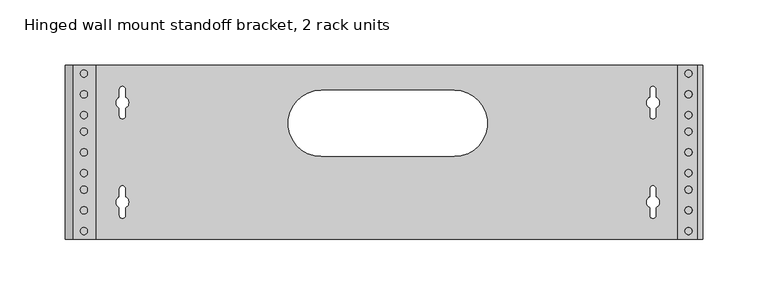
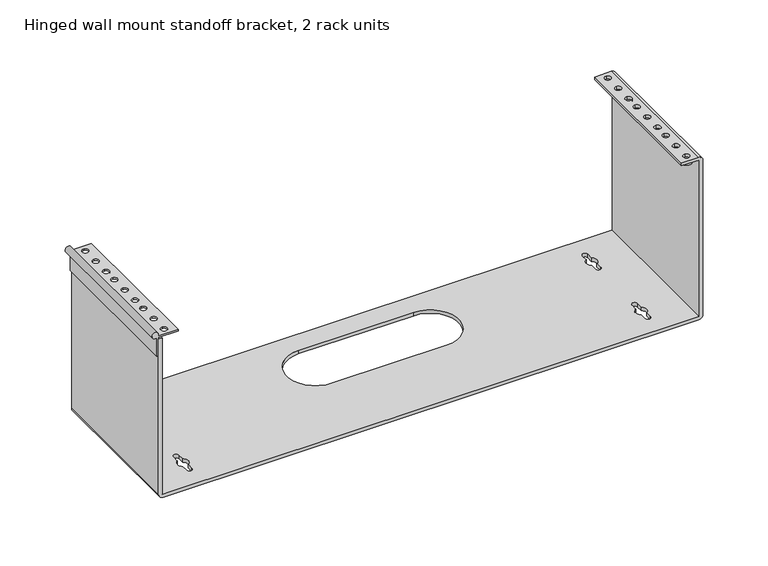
"""IFC4 building model written with IfcOpenShell, lengths in millimetres: electric appliance geometry, Data_Device-Network-Leviton-Hinged-Wall_Mount-Bracket : Hinged wall mount standoff bracket, 2 rack units."""

from ifc_helpers import new_model, si_unit, point, frame, frame_2d, origin, place, context, project, spatial, polyline, circle_curve, trimmed, segment, composite_curve, outline, extrude, source, transform, mapped, element, save
from ifc_brep_helpers import plane_surface, cylinder_surface, revolved_surface, advanced_brep


def hinged_wall_mount_standoff_bracket_2_rack_units_e0259093(model_context):
    return source(origin(), model_context, "Body", "SolidModel", [
        advanced_brep(
        [(214.2109, 72.1292825, 152.4), (218.2749, 72.1292825, 148.336), (218.2749, 72.1292825, 4.064), (214.2109, 72.1292825, 0.0), (-260.2611, 72.1292825, 0.0), (-264.3251, 72.1292825, 4.064), (-264.3251, 72.1292825, 149.733), (-261.1501, 72.1292825, 149.733), (-261.1501, 72.1292825, 3.175), (215.0999, 72.1292825, 3.175), (215.0999, 72.1292825, 149.86), (199.2249, 72.1292825, 149.86), (199.2249, 72.1292825, 152.4), (214.2109, -61.2207175, 152.4), (199.2249, -61.2207175, 152.4), (199.2249, -61.2207175, 149.86), (215.0999, -61.2207175, 149.86), (215.0999, -61.2207175, 3.175), (-261.1501, -61.2207175, 3.175), (-261.1501, -61.2207175, 149.733), (-264.3251, -61.2207175, 149.733), (-264.3251, -61.2207175, 4.064), (-260.2611, -61.2207175, 0.0), (214.2109, -61.2207175, 0.0), (218.2749, -61.2207175, 4.064), (218.2749, -61.2207175, 148.336), (207.3529, -57.6139175, 152.4), (207.3529, -52.1275175, 152.4), (207.3529, -41.7389175, 152.4), (207.3529, -36.2525175, 152.4), (207.3529, -25.8639175, 152.4), (207.3529, -20.3775175, 152.4), (207.3529, -13.1639175, 152.4), (207.3529, -7.6775175, 152.4), (207.3529, 2.7110825, 152.4), (207.3529, 8.1974825, 152.4), (207.3529, 18.5860825, 152.4), (207.3529, 24.0724825, 152.4), (207.3529, 31.2860825, 152.4), (207.3529, 36.7724825, 152.4), (207.3529, 47.1610825, 152.4), (207.3529, 52.6474825, 152.4), (207.3529, 63.0360825, 152.4), (207.3529, 68.5224825, 152.4), (207.3529, -52.1275175, 149.86), (207.3529, -57.6139175, 149.86), (207.3529, -36.2525175, 149.86), (207.3529, -41.7389175, 149.86), (207.3529, -20.3775175, 149.86), (207.3529, -25.8639175, 149.86), (207.3529, -7.6775175, 149.86), (207.3529, -13.1639175, 149.86), (207.3529, 8.1974825, 149.86), (207.3529, 2.7110825, 149.86), (207.3529, 24.0724825, 149.86), (207.3529, 18.5860825, 149.86), (207.3529, 36.7724825, 149.86), (207.3529, 31.2860825, 149.86), (207.3529, 52.6474825, 149.86), (207.3529, 47.1610825, 149.86), (207.3529, 68.5224825, 149.86), (207.3529, 63.0360825, 149.86), (-223.9391, 47.8045155, 3.175), (-223.9391, 39.3040496, 3.175), (-223.9391, 33.3942825, 3.175), (-228.5111, 33.3942825, 3.175), (-228.5111, 39.3040496, 3.175), (-228.5111, 47.8045155, 3.175), (-228.5111, 53.7142825, 3.175), (-223.9391, 53.7142825, 3.175), (-228.5111, -22.4857175, 3.175), (-223.9391, -22.4857175, 3.175), (-223.9391, -28.3954845, 3.175), (-223.9391, -36.8959504, 3.175), (-223.9391, -42.8057175, 3.175), (-228.5111, -42.8057175, 3.175), (-228.5111, -36.8959504, 3.175), (-228.5111, -28.3954845, 3.175), (27.7749, 53.0792825, 3.175), (27.7749, 2.2792825, 3.175), (-73.8251, 2.2792825, 3.175), (-73.8251, 53.0792825, 3.175), (182.4609, 53.7142825, 3.175), (182.4609, 47.8045155, 3.175), (182.4609, 39.3040496, 3.175), (182.4609, 33.3942825, 3.175), (177.8889, 33.3942825, 3.175), (177.8889, 39.3040496, 3.175), (177.8889, 47.8045155, 3.175), (177.8889, 53.7142825, 3.175), (177.8889, -22.4857175, 3.175), (182.4609, -22.4857175, 3.175), (182.4609, -28.3954845, 3.175), (182.4609, -36.8959504, 3.175), (182.4609, -42.8057175, 3.175), (177.8889, -42.8057175, 3.175), (177.8889, -36.8959504, 3.175), (177.8889, -28.3954845, 3.175), (-223.9391, 39.3040496, 0.0), (-223.9391, 47.8045155, 0.0), (-223.9391, 53.7142825, 0.0), (-228.5111, 53.7142825, 0.0), (-228.5111, 47.8045155, 0.0), (-228.5111, 39.3040496, 0.0), (-228.5111, 33.3942825, 0.0), (-223.9391, 33.3942825, 0.0), (-223.9391, -22.4857175, 0.0), (-228.5111, -22.4857175, 0.0), (-228.5111, -28.3954845, 0.0), (-228.5111, -36.8959504, 0.0), (-228.5111, -42.8057175, 0.0), (-223.9391, -42.8057175, 0.0), (-223.9391, -36.8959504, 0.0), (-223.9391, -28.3954845, 0.0), (27.7749, 2.2792825, 0.0), (27.7749, 53.0792825, 0.0), (-73.8251, 53.0792825, 0.0), (-73.8251, 2.2792825, 0.0), (182.4609, 47.8045155, 0.0), (182.4609, 53.7142825, 0.0), (177.8889, 53.7142825, 0.0), (177.8889, 47.8045155, 0.0), (177.8889, 39.3040496, 0.0), (177.8889, 33.3942825, 0.0), (182.4609, 33.3942825, 0.0), (182.4609, 39.3040496, 0.0), (182.4609, -22.4857175, 0.0), (177.8889, -22.4857175, 0.0), (177.8889, -28.3954845, 0.0), (177.8889, -36.8959504, 0.0), (177.8889, -42.8057175, 0.0), (182.4609, -42.8057175, 0.0), (182.4609, -36.8959504, 0.0), (182.4609, -28.3954845, 0.0)],
        [
            (0, 1, circle_curve(frame((214.2109, 72.1292825, 148.336), z_axis=(0.0, 1.0, 0.0), x_axis=(-1.0, 0.0, 0.0)), 4.064)),
            (1, 2),
            (2, 3, circle_curve(frame((214.2109, 72.1292825, 4.064), z_axis=(0.0, 1.0, 0.0), x_axis=(-1.0, 0.0, 0.0)), 4.064)),
            (3, 4),
            (4, 5, circle_curve(frame((-260.2611, 72.1292825, 4.064), z_axis=(0.0, 1.0, 0.0), x_axis=(-1.0, 0.0, 0.0)), 4.064)),
            (5, 6),
            (6, 7),
            (7, 8),
            (8, 9),
            (9, 10),
            (10, 11),
            (11, 12),
            (12, 0),
            (13, 14),
            (14, 15),
            (15, 16),
            (16, 17),
            (17, 18),
            (18, 19),
            (19, 20),
            (20, 21),
            (21, 22, circle_curve(frame((-260.2611, -61.2207175, 4.064), z_axis=(0.0, -1.0, 0.0), x_axis=(-1.0, 0.0, 0.0)), 4.064)),
            (22, 23),
            (23, 24, circle_curve(frame((214.2109, -61.2207175, 4.064), z_axis=(0.0, -1.0, 0.0), x_axis=(-1.0, 0.0, 0.0)), 4.064)),
            (24, 25),
            (25, 13, circle_curve(frame((214.2109, -61.2207175, 148.336), z_axis=(0.0, -1.0, 0.0), x_axis=(-1.0, 0.0, 0.0)), 4.064)),
            (12, 14),
            (13, 0),
            (26, 27, circle_curve(frame((207.3529, -54.8707175, 152.4), z_axis=(0.0, 0.0, -1.0), x_axis=(0.0, -1.0, 0.0)), 2.7432)),
            (27, 26, circle_curve(frame((207.3529, -54.8707175, 152.4), z_axis=(0.0, 0.0, -1.0), x_axis=(0.0, -1.0, 0.0)), 2.7432)),
            (28, 29, circle_curve(frame((207.3529, -38.9957175, 152.4), z_axis=(0.0, 0.0, -1.0), x_axis=(0.0, -1.0, 0.0)), 2.7432)),
            (29, 28, circle_curve(frame((207.3529, -38.9957175, 152.4), z_axis=(0.0, 0.0, -1.0), x_axis=(0.0, -1.0, 0.0)), 2.7432)),
            (30, 31, circle_curve(frame((207.3529, -23.1207175, 152.4), z_axis=(0.0, 0.0, -1.0), x_axis=(0.0, -1.0, 0.0)), 2.7432)),
            (31, 30, circle_curve(frame((207.3529, -23.1207175, 152.4), z_axis=(0.0, 0.0, -1.0), x_axis=(0.0, -1.0, 0.0)), 2.7432)),
            (32, 33, circle_curve(frame((207.3529, -10.4207175, 152.4), z_axis=(0.0, 0.0, -1.0), x_axis=(0.0, -1.0, 0.0)), 2.7432)),
            (33, 32, circle_curve(frame((207.3529, -10.4207175, 152.4), z_axis=(0.0, 0.0, -1.0), x_axis=(0.0, -1.0, 0.0)), 2.7432)),
            (34, 35, circle_curve(frame((207.3529, 5.4542825, 152.4), z_axis=(0.0, 0.0, -1.0), x_axis=(0.0, -1.0, 0.0)), 2.7432)),
            (35, 34, circle_curve(frame((207.3529, 5.4542825, 152.4), z_axis=(0.0, 0.0, -1.0), x_axis=(0.0, -1.0, 0.0)), 2.7432)),
            (36, 37, circle_curve(frame((207.3529, 21.3292825, 152.4), z_axis=(0.0, 0.0, -1.0), x_axis=(0.0, -1.0, 0.0)), 2.7432)),
            (37, 36, circle_curve(frame((207.3529, 21.3292825, 152.4), z_axis=(0.0, 0.0, -1.0), x_axis=(0.0, -1.0, 0.0)), 2.7432)),
            (38, 39, circle_curve(frame((207.3529, 34.0292825, 152.4), z_axis=(0.0, 0.0, -1.0), x_axis=(0.0, -1.0, 0.0)), 2.7432)),
            (39, 38, circle_curve(frame((207.3529, 34.0292825, 152.4), z_axis=(0.0, 0.0, -1.0), x_axis=(0.0, -1.0, 0.0)), 2.7432)),
            (40, 41, circle_curve(frame((207.3529, 49.9042825, 152.4), z_axis=(0.0, 0.0, -1.0), x_axis=(0.0, -1.0, 0.0)), 2.7432)),
            (41, 40, circle_curve(frame((207.3529, 49.9042825, 152.4), z_axis=(0.0, 0.0, -1.0), x_axis=(0.0, -1.0, 0.0)), 2.7432)),
            (42, 43, circle_curve(frame((207.3529, 65.7792825, 152.4), z_axis=(0.0, 0.0, -1.0), x_axis=(0.0, -1.0, 0.0)), 2.7432)),
            (43, 42, circle_curve(frame((207.3529, 65.7792825, 152.4), z_axis=(0.0, 0.0, -1.0), x_axis=(0.0, -1.0, 0.0)), 2.7432)),
            (11, 15),
            (10, 16),
            (44, 45, circle_curve(frame((207.3529, -54.8707175, 149.86), z_axis=(0.0, 0.0, 1.0), x_axis=(0.0, -1.0, 0.0)), 2.7432)),
            (45, 44, circle_curve(frame((207.3529, -54.8707175, 149.86), z_axis=(0.0, 0.0, 1.0), x_axis=(0.0, -1.0, 0.0)), 2.7432)),
            (46, 47, circle_curve(frame((207.3529, -38.9957175, 149.86), z_axis=(0.0, 0.0, 1.0), x_axis=(0.0, -1.0, 0.0)), 2.7432)),
            (47, 46, circle_curve(frame((207.3529, -38.9957175, 149.86), z_axis=(0.0, 0.0, 1.0), x_axis=(0.0, -1.0, 0.0)), 2.7432)),
            (48, 49, circle_curve(frame((207.3529, -23.1207175, 149.86), z_axis=(0.0, 0.0, 1.0), x_axis=(0.0, -1.0, 0.0)), 2.7432)),
            (49, 48, circle_curve(frame((207.3529, -23.1207175, 149.86), z_axis=(0.0, 0.0, 1.0), x_axis=(0.0, -1.0, 0.0)), 2.7432)),
            (50, 51, circle_curve(frame((207.3529, -10.4207175, 149.86), z_axis=(0.0, 0.0, 1.0), x_axis=(0.0, -1.0, 0.0)), 2.7432)),
            (51, 50, circle_curve(frame((207.3529, -10.4207175, 149.86), z_axis=(0.0, 0.0, 1.0), x_axis=(0.0, -1.0, 0.0)), 2.7432)),
            (52, 53, circle_curve(frame((207.3529, 5.4542825, 149.86), z_axis=(0.0, 0.0, 1.0), x_axis=(0.0, -1.0, 0.0)), 2.7432)),
            (53, 52, circle_curve(frame((207.3529, 5.4542825, 149.86), z_axis=(0.0, 0.0, 1.0), x_axis=(0.0, -1.0, 0.0)), 2.7432)),
            (54, 55, circle_curve(frame((207.3529, 21.3292825, 149.86), z_axis=(0.0, 0.0, 1.0), x_axis=(0.0, -1.0, 0.0)), 2.7432)),
            (55, 54, circle_curve(frame((207.3529, 21.3292825, 149.86), z_axis=(0.0, 0.0, 1.0), x_axis=(0.0, -1.0, 0.0)), 2.7432)),
            (56, 57, circle_curve(frame((207.3529, 34.0292825, 149.86), z_axis=(0.0, 0.0, 1.0), x_axis=(0.0, -1.0, 0.0)), 2.7432)),
            (57, 56, circle_curve(frame((207.3529, 34.0292825, 149.86), z_axis=(0.0, 0.0, 1.0), x_axis=(0.0, -1.0, 0.0)), 2.7432)),
            (58, 59, circle_curve(frame((207.3529, 49.9042825, 149.86), z_axis=(0.0, 0.0, 1.0), x_axis=(0.0, -1.0, 0.0)), 2.7432)),
            (59, 58, circle_curve(frame((207.3529, 49.9042825, 149.86), z_axis=(0.0, 0.0, 1.0), x_axis=(0.0, -1.0, 0.0)), 2.7432)),
            (60, 61, circle_curve(frame((207.3529, 65.7792825, 149.86), z_axis=(0.0, 0.0, 1.0), x_axis=(0.0, -1.0, 0.0)), 2.7432)),
            (61, 60, circle_curve(frame((207.3529, 65.7792825, 149.86), z_axis=(0.0, 0.0, 1.0), x_axis=(0.0, -1.0, 0.0)), 2.7432)),
            (9, 17),
            (8, 18),
            (62, 63, circle_curve(frame((-226.2251, 43.5542825, 3.175), z_axis=(0.0, 0.0, -1.0), x_axis=(1.0, 0.0, 0.0)), 4.826)),
            (63, 64),
            (64, 65, circle_curve(frame((-226.2251, 33.3942825, 3.175), z_axis=(0.0, 0.0, -1.0), x_axis=(1.0, 0.0, 0.0)), 2.286)),
            (65, 66),
            (66, 67, circle_curve(frame((-226.2251, 43.5542825, 3.175), z_axis=(0.0, 0.0, -1.0), x_axis=(1.0, 0.0, 0.0)), 4.826)),
            (67, 68),
            (68, 69, circle_curve(frame((-226.2251, 53.7142825, 3.175), z_axis=(0.0, 0.0, -1.0), x_axis=(1.0, 0.0, 0.0)), 2.286)),
            (69, 62),
            (70, 71, circle_curve(frame((-226.2251, -22.4857175, 3.175), z_axis=(0.0, 0.0, -1.0), x_axis=(1.0, 0.0, 0.0)), 2.286)),
            (71, 72),
            (72, 73, circle_curve(frame((-226.2251, -32.6457175, 3.175), z_axis=(0.0, 0.0, -1.0), x_axis=(1.0, 0.0, 0.0)), 4.826)),
            (73, 74),
            (74, 75, circle_curve(frame((-226.2251, -42.8057175, 3.175), z_axis=(0.0, 0.0, -1.0), x_axis=(1.0, 0.0, 0.0)), 2.286)),
            (75, 76),
            (76, 77, circle_curve(frame((-226.2251, -32.6457175, 3.175), z_axis=(0.0, 0.0, -1.0), x_axis=(1.0, 0.0, 0.0)), 4.826)),
            (77, 70),
            (78, 79, circle_curve(frame((27.7749, 27.6792825, 3.175), z_axis=(0.0, 0.0, -1.0), x_axis=(1.0, 0.0, 0.0)), 25.4)),
            (79, 80),
            (80, 81, circle_curve(frame((-73.8251, 27.6792825, 3.175), z_axis=(0.0, 0.0, -1.0), x_axis=(1.0, 0.0, 0.0)), 25.4)),
            (81, 78),
            (82, 83),
            (83, 84, circle_curve(frame((180.1749, 43.5542825, 3.175), z_axis=(0.0, 0.0, -1.0), x_axis=(1.0, 0.0, 0.0)), 4.826)),
            (84, 85),
            (85, 86, circle_curve(frame((180.1749, 33.3942825, 3.175), z_axis=(0.0, 0.0, -1.0), x_axis=(1.0, 0.0, 0.0)), 2.286)),
            (86, 87),
            (87, 88, circle_curve(frame((180.1749, 43.5542825, 3.175), z_axis=(0.0, 0.0, -1.0), x_axis=(1.0, 0.0, 0.0)), 4.826)),
            (88, 89),
            (89, 82, circle_curve(frame((180.1749, 53.7142825, 3.175), z_axis=(0.0, 0.0, -1.0), x_axis=(1.0, 0.0, 0.0)), 2.286)),
            (90, 91, circle_curve(frame((180.1749, -22.4857175, 3.175), z_axis=(0.0, 0.0, -1.0), x_axis=(1.0, 0.0, 0.0)), 2.286)),
            (91, 92),
            (92, 93, circle_curve(frame((180.1749, -32.6457175, 3.175), z_axis=(0.0, 0.0, -1.0), x_axis=(1.0, 0.0, 0.0)), 4.826)),
            (93, 94),
            (94, 95, circle_curve(frame((180.1749, -42.8057175, 3.175), z_axis=(0.0, 0.0, -1.0), x_axis=(1.0, 0.0, 0.0)), 2.286)),
            (95, 96),
            (96, 97, circle_curve(frame((180.1749, -32.6457175, 3.175), z_axis=(0.0, 0.0, -1.0), x_axis=(1.0, 0.0, 0.0)), 4.826)),
            (97, 90),
            (7, 19),
            (6, 20),
            (5, 21),
            (4, 22),
            (3, 23),
            (98, 99, circle_curve(frame((-226.2251, 43.5542825, 0.0), z_axis=(0.0, 0.0, 1.0), x_axis=(1.0, 0.0, 0.0)), 4.826)),
            (99, 100),
            (100, 101, circle_curve(frame((-226.2251, 53.7142825, 0.0), z_axis=(0.0, 0.0, 1.0), x_axis=(1.0, 0.0, 0.0)), 2.286)),
            (101, 102),
            (102, 103, circle_curve(frame((-226.2251, 43.5542825, 0.0), z_axis=(0.0, 0.0, 1.0), x_axis=(1.0, 0.0, 0.0)), 4.826)),
            (103, 104),
            (104, 105, circle_curve(frame((-226.2251, 33.3942825, 0.0), z_axis=(0.0, 0.0, 1.0), x_axis=(1.0, 0.0, 0.0)), 2.286)),
            (105, 98),
            (106, 107, circle_curve(frame((-226.2251, -22.4857175, 0.0), z_axis=(0.0, 0.0, 1.0), x_axis=(1.0, 0.0, 0.0)), 2.286)),
            (107, 108),
            (108, 109, circle_curve(frame((-226.2251, -32.6457175, 0.0), z_axis=(0.0, 0.0, 1.0), x_axis=(1.0, 0.0, 0.0)), 4.826)),
            (109, 110),
            (110, 111, circle_curve(frame((-226.2251, -42.8057175, 0.0), z_axis=(0.0, 0.0, 1.0), x_axis=(1.0, 0.0, 0.0)), 2.286)),
            (111, 112),
            (112, 113, circle_curve(frame((-226.2251, -32.6457175, 0.0), z_axis=(0.0, 0.0, 1.0), x_axis=(1.0, 0.0, 0.0)), 4.826)),
            (113, 106),
            (114, 115, circle_curve(frame((27.7749, 27.6792825, 0.0), z_axis=(0.0, 0.0, 1.0), x_axis=(1.0, 0.0, 0.0)), 25.4)),
            (115, 116),
            (116, 117, circle_curve(frame((-73.8251, 27.6792825, 0.0), z_axis=(0.0, 0.0, 1.0), x_axis=(1.0, 0.0, 0.0)), 25.4)),
            (117, 114),
            (118, 119),
            (119, 120, circle_curve(frame((180.1749, 53.7142825, 0.0), z_axis=(0.0, 0.0, 1.0), x_axis=(1.0, 0.0, 0.0)), 2.286)),
            (120, 121),
            (121, 122, circle_curve(frame((180.1749, 43.5542825, 0.0), z_axis=(0.0, 0.0, 1.0), x_axis=(1.0, 0.0, 0.0)), 4.826)),
            (122, 123),
            (123, 124, circle_curve(frame((180.1749, 33.3942825, 0.0), z_axis=(0.0, 0.0, 1.0), x_axis=(1.0, 0.0, 0.0)), 2.286)),
            (124, 125),
            (125, 118, circle_curve(frame((180.1749, 43.5542825, 0.0), z_axis=(0.0, 0.0, 1.0), x_axis=(1.0, 0.0, 0.0)), 4.826)),
            (126, 127, circle_curve(frame((180.1749, -22.4857175, 0.0), z_axis=(0.0, 0.0, 1.0), x_axis=(1.0, 0.0, 0.0)), 2.286)),
            (127, 128),
            (128, 129, circle_curve(frame((180.1749, -32.6457175, 0.0), z_axis=(0.0, 0.0, 1.0), x_axis=(1.0, 0.0, 0.0)), 4.826)),
            (129, 130),
            (130, 131, circle_curve(frame((180.1749, -42.8057175, 0.0), z_axis=(0.0, 0.0, 1.0), x_axis=(1.0, 0.0, 0.0)), 2.286)),
            (131, 132),
            (132, 133, circle_curve(frame((180.1749, -32.6457175, 0.0), z_axis=(0.0, 0.0, 1.0), x_axis=(1.0, 0.0, 0.0)), 4.826)),
            (133, 126),
            (2, 24),
            (1, 25),
            (44, 27),
            (26, 45),
            (46, 29),
            (28, 47),
            (48, 31),
            (30, 49),
            (50, 33),
            (32, 51),
            (52, 35),
            (34, 53),
            (54, 37),
            (36, 55),
            (56, 39),
            (38, 57),
            (58, 41),
            (40, 59),
            (60, 43),
            (42, 61),
            (98, 63),
            (62, 99),
            (69, 100),
            (68, 101),
            (67, 102),
            (66, 103),
            (65, 104),
            (64, 105),
            (106, 71),
            (70, 107),
            (77, 108),
            (76, 109),
            (75, 110),
            (74, 111),
            (73, 112),
            (72, 113),
            (114, 79),
            (78, 115),
            (81, 116),
            (80, 117),
            (118, 83),
            (82, 119),
            (89, 120),
            (88, 121),
            (87, 122),
            (86, 123),
            (85, 124),
            (84, 125),
            (126, 91),
            (90, 127),
            (97, 128),
            (96, 129),
            (95, 130),
            (94, 131),
            (93, 132),
            (92, 133),
        ],
        [
            plane_surface(frame((210.1469, 72.1292825, 148.336), z_axis=(0.0, 1.0, 0.0), x_axis=(0.0, 0.0, 1.0))),
            plane_surface(frame((210.1469, -61.2207175, 148.336), z_axis=(0.0, -1.0, 0.0), x_axis=(0.0, 0.0, -1.0))),
            plane_surface(frame((199.2249, 72.1292825, 152.4), z_axis=(0.0, 0.0, 1.0), x_axis=(0.0, -1.0, 0.0))),
            plane_surface(frame((199.2249, 72.1292825, 149.86), z_axis=(-1.0, 0.0, 0.0), x_axis=(0.0, -1.0, 0.0))),
            plane_surface(frame((215.0999, 72.1292825, 149.86), z_axis=(0.0, 0.0, -1.0), x_axis=(0.0, -1.0, 0.0))),
            plane_surface(frame((215.0999, 72.1292825, 3.175), z_axis=(-1.0, 0.0, 0.0), x_axis=(0.0, -1.0, 0.0))),
            plane_surface(frame((-261.1501, 72.1292825, 3.175), z_axis=(0.0, 0.0, 1.0), x_axis=(0.0, -1.0, 0.0))),
            plane_surface(frame((-261.1501, 72.1292825, 149.733), z_axis=(1.0, 0.0, 0.0), x_axis=(0.0, -1.0, 0.0))),
            plane_surface(frame((-264.3251, 72.1292825, 149.733), z_axis=(0.0, 0.0, 1.0), x_axis=(0.0, -1.0, 0.0))),
            plane_surface(frame((-264.3251, 72.1292825, 4.064), z_axis=(-1.0, 0.0, 0.0), x_axis=(0.0, -1.0, 0.0))),
            cylinder_surface(frame((-260.2611, -61.2207175, 4.064), z_axis=(0.0, 1.0, 0.0), x_axis=(-1.0, 0.0, 0.0)), 4.064),
            plane_surface(frame((214.2109, 72.1292825, 0.0), z_axis=(0.0, 0.0, -1.0), x_axis=(0.0, -1.0, 0.0))),
            cylinder_surface(frame((214.2109, -61.2207175, 4.064), z_axis=(0.0, 1.0, 0.0), x_axis=(-1.0, 0.0, 0.0)), 4.064),
            plane_surface(frame((218.2749, 72.1292825, 148.336), z_axis=(1.0, 0.0, 0.0), x_axis=(0.0, -1.0, 0.0))),
            cylinder_surface(frame((214.2109, -61.2207175, 148.336), z_axis=(0.0, 1.0, 0.0), x_axis=(-1.0, 0.0, 0.0)), 4.064),
            revolved_surface(polyline([(207.3529, -57.6139175, 152.4), (207.3529, -57.6139175, 149.86)]), (207.3529, -54.8707175, 152.4), (0.0, 0.0, 1.0)),
            revolved_surface(polyline([(207.3529, -41.7389175, 152.4), (207.3529, -41.7389175, 149.86)]), (207.3529, -38.9957175, 152.4), (0.0, 0.0, 1.0)),
            revolved_surface(polyline([(207.3529, -25.8639175, 152.4), (207.3529, -25.8639175, 149.86)]), (207.3529, -23.1207175, 152.4), (0.0, 0.0, 1.0)),
            revolved_surface(polyline([(207.3529, -13.1639175, 152.4), (207.3529, -13.1639175, 149.86)]), (207.3529, -10.4207175, 152.4), (0.0, 0.0, 1.0)),
            revolved_surface(polyline([(207.3529, 2.7110825, 152.4), (207.3529, 2.7110825, 149.86)]), (207.3529, 5.4542825, 152.4), (0.0, 0.0, 1.0)),
            revolved_surface(polyline([(207.3529, 18.586082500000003, 152.4), (207.3529, 18.586082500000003, 149.86)]), (207.3529, 21.3292825, 152.4), (0.0, 0.0, 1.0)),
            revolved_surface(polyline([(207.3529, 31.2860825, 152.4), (207.3529, 31.2860825, 149.86)]), (207.3529, 34.0292825, 152.4), (0.0, 0.0, 1.0)),
            revolved_surface(polyline([(207.3529, 47.1610825, 152.4), (207.3529, 47.1610825, 149.86)]), (207.3529, 49.9042825, 152.4), (0.0, 0.0, 1.0)),
            revolved_surface(polyline([(207.3529, 63.03608249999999, 152.4), (207.3529, 63.03608249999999, 149.86)]), (207.3529, 65.7792825, 152.4), (0.0, 0.0, 1.0)),
            revolved_surface(polyline([(-221.3991, 43.5542825, 3.175), (-221.3991, 43.5542825, 0.0)]), (-226.2251, 43.5542825, 0.0), (0.0, 0.0, 1.0)),
            plane_surface(frame((-223.9391, 47.8045155, 5.1760392), z_axis=(-1.0, 0.0, 0.0), x_axis=(0.0, 0.0, -1.0))),
            revolved_surface(polyline([(-223.9391, 53.7142825, 3.175), (-223.9391, 53.7142825, 0.0)]), (-226.2251, 53.7142825, 0.0), (0.0, 0.0, 1.0)),
            plane_surface(frame((-228.5111, 53.7142825, 5.1760392), z_axis=(1.0, 0.0, 0.0), x_axis=(0.0, 0.0, -1.0))),
            plane_surface(frame((-228.5111, 39.3040496, 5.1760392), z_axis=(1.0, 0.0, 0.0), x_axis=(0.0, 0.0, -1.0))),
            revolved_surface(polyline([(-223.9391, 33.3942825, 3.175), (-223.9391, 33.3942825, 0.0)]), (-226.2251, 33.3942825, 0.0), (0.0, 0.0, 1.0)),
            plane_surface(frame((-223.9391, 33.3942825, 5.1760392), z_axis=(-1.0, 0.0, 0.0), x_axis=(0.0, 0.0, -1.0))),
            revolved_surface(polyline([(-223.9391, -22.4857175, 3.175), (-223.9391, -22.4857175, 0.0)]), (-226.2251, -22.4857175, 0.0), (0.0, 0.0, 1.0)),
            plane_surface(frame((-228.5111, -22.4857175, 5.1760392), z_axis=(1.0, 0.0, 0.0), x_axis=(0.0, 0.0, -1.0))),
            revolved_surface(polyline([(-221.3991, -32.6457175, 3.175), (-221.3991, -32.6457175, 0.0)]), (-226.2251, -32.6457175, 0.0), (0.0, 0.0, 1.0)),
            plane_surface(frame((-228.5111, -36.8959504, 5.1760392), z_axis=(1.0, 0.0, 0.0), x_axis=(0.0, 0.0, -1.0))),
            revolved_surface(polyline([(-223.9391, -42.8057175, 3.175), (-223.9391, -42.8057175, 0.0)]), (-226.2251, -42.8057175, 0.0), (0.0, 0.0, 1.0)),
            plane_surface(frame((-223.9391, -42.8057175, 5.1760392), z_axis=(-1.0, 0.0, 0.0), x_axis=(0.0, 0.0, -1.0))),
            plane_surface(frame((-223.9391, -28.3954845, 5.1760392), z_axis=(-1.0, 0.0, 0.0), x_axis=(0.0, 0.0, -1.0))),
            revolved_surface(polyline([(53.174899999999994, 27.6792825, 3.175), (53.174899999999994, 27.6792825, 0.0)]), (27.7749, 27.6792825, 0.0), (0.0, 0.0, 1.0)),
            plane_surface(frame((27.7749, 53.0792825, 5.1760392), z_axis=(0.0, -1.0, 0.0), x_axis=(0.0, 0.0, -1.0))),
            revolved_surface(polyline([(-48.42510000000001, 27.6792825, 3.175), (-48.42510000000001, 27.6792825, 0.0)]), (-73.8251, 27.6792825, 0.0), (0.0, 0.0, 1.0)),
            plane_surface(frame((-73.8251, 2.2792825, 5.1760392), z_axis=(0.0, 1.0, 0.0), x_axis=(0.0, 0.0, -1.0))),
            plane_surface(frame((182.4609, 47.8045155, 5.1760392), z_axis=(-1.0, 0.0, 0.0), x_axis=(0.0, 0.0, -1.0))),
            revolved_surface(polyline([(182.4609, 53.7142825, 3.175), (182.4609, 53.7142825, 0.0)]), (180.1749, 53.7142825, 0.0), (0.0, 0.0, 1.0)),
            plane_surface(frame((177.8889, 53.7142825, 5.1760392), z_axis=(1.0, 0.0, 0.0), x_axis=(0.0, 0.0, -1.0))),
            revolved_surface(polyline([(185.0009, 43.5542825, 3.175), (185.0009, 43.5542825, 0.0)]), (180.1749, 43.5542825, 0.0), (0.0, 0.0, 1.0)),
            plane_surface(frame((177.8889, 39.3040496, 5.1760392), z_axis=(1.0, 0.0, 0.0), x_axis=(0.0, 0.0, -1.0))),
            revolved_surface(polyline([(182.4609, 33.3942825, 3.175), (182.4609, 33.3942825, 0.0)]), (180.1749, 33.3942825, 0.0), (0.0, 0.0, 1.0)),
            plane_surface(frame((182.4609, 33.3942825, 5.1760392), z_axis=(-1.0, 0.0, 0.0), x_axis=(0.0, 0.0, -1.0))),
            revolved_surface(polyline([(182.4609, -22.4857175, 3.175), (182.4609, -22.4857175, 0.0)]), (180.1749, -22.4857175, 0.0), (0.0, 0.0, 1.0)),
            plane_surface(frame((177.8889, -22.4857175, 5.1760392), z_axis=(1.0, 0.0, 0.0), x_axis=(0.0, 0.0, -1.0))),
            revolved_surface(polyline([(185.0009, -32.6457175, 3.175), (185.0009, -32.6457175, 0.0)]), (180.1749, -32.6457175, 0.0), (0.0, 0.0, 1.0)),
            plane_surface(frame((177.8889, -36.8959504, 5.1760392), z_axis=(1.0, 0.0, 0.0), x_axis=(0.0, 0.0, -1.0))),
            revolved_surface(polyline([(182.4609, -42.8057175, 3.175), (182.4609, -42.8057175, 0.0)]), (180.1749, -42.8057175, 0.0), (0.0, 0.0, 1.0)),
            plane_surface(frame((182.4609, -42.8057175, 5.1760392), z_axis=(-1.0, 0.0, 0.0), x_axis=(0.0, 0.0, -1.0))),
            plane_surface(frame((182.4609, -28.3954845, 5.1760392), z_axis=(-1.0, 0.0, 0.0), x_axis=(0.0, 0.0, -1.0))),
        ],
        [
            (0, [[1, 2, 3, 4, 5, 6, 7, 8, 9, 10, 11, 12, 13]]),
            (1, [[14, 15, 16, 17, 18, 19, 20, 21, 22, 23, 24, 25, 26]]),
            (2, [[-13, 27, -14, 28], [29, 30], [31, 32], [33, 34], [35, 36], [37, 38], [39, 40], [41, 42], [43, 44], [45, 46]]),
            (3, [[-12, 47, -15, -27]]),
            (4, [[-11, 48, -16, -47], [49, 50], [51, 52], [53, 54], [55, 56], [57, 58], [59, 60], [61, 62], [63, 64], [65, 66]]),
            (5, [[-10, 67, -17, -48]]),
            (6, [[-9, 68, -18, -67], [69, 70, 71, 72, 73, 74, 75, 76], [77, 78, 79, 80, 81, 82, 83, 84], [85, 86, 87, 88], [89, 90, 91, 92, 93, 94, 95, 96], [97, 98, 99, 100, 101, 102, 103, 104]]),
            (7, [[-8, 105, -19, -68]]),
            (8, [[-7, 106, -20, -105]]),
            (9, [[-6, 107, -21, -106]]),
            (10, [[-5, 108, -22, -107]]),
            (11, [[-4, 109, -23, -108], [110, 111, 112, 113, 114, 115, 116, 117], [118, 119, 120, 121, 122, 123, 124, 125], [126, 127, 128, 129], [130, 131, 132, 133, 134, 135, 136, 137], [138, 139, 140, 141, 142, 143, 144, 145]]),
            (12, [[-3, 146, -24, -109]]),
            (13, [[-2, 147, -25, -146]]),
            (14, [[-1, -28, -26, -147]]),
            (15, [[148, -29, 149, -49]]),
            (15, [[-148, -50, -149, -30]]),
            (16, [[150, -31, 151, -51]]),
            (16, [[-150, -52, -151, -32]]),
            (17, [[152, -33, 153, -53]]),
            (17, [[-152, -54, -153, -34]]),
            (18, [[154, -35, 155, -55]]),
            (18, [[-154, -56, -155, -36]]),
            (19, [[156, -37, 157, -57]]),
            (19, [[-156, -58, -157, -38]]),
            (20, [[158, -39, 159, -59]]),
            (20, [[-158, -60, -159, -40]]),
            (21, [[160, -41, 161, -61]]),
            (21, [[-160, -62, -161, -42]]),
            (22, [[162, -43, 163, -63]]),
            (22, [[-162, -64, -163, -44]]),
            (23, [[164, -45, 165, -65]]),
            (23, [[-164, -66, -165, -46]]),
            (24, [[166, -69, 167, -110]]),
            (25, [[-167, -76, 168, -111]]),
            (26, [[-168, -75, 169, -112]]),
            (27, [[-169, -74, 170, -113]]),
            (24, [[-170, -73, 171, -114]]),
            (28, [[-171, -72, 172, -115]]),
            (29, [[-172, -71, 173, -116]]),
            (30, [[-166, -117, -173, -70]]),
            (31, [[174, -77, 175, -118]]),
            (32, [[-175, -84, 176, -119]]),
            (33, [[-176, -83, 177, -120]]),
            (34, [[-177, -82, 178, -121]]),
            (35, [[-178, -81, 179, -122]]),
            (36, [[-179, -80, 180, -123]]),
            (33, [[-180, -79, 181, -124]]),
            (37, [[-174, -125, -181, -78]]),
            (38, [[182, -85, 183, -126]]),
            (39, [[-183, -88, 184, -127]]),
            (40, [[-184, -87, 185, -128]]),
            (41, [[-182, -129, -185, -86]]),
            (42, [[186, -89, 187, -130]]),
            (43, [[-187, -96, 188, -131]]),
            (44, [[-188, -95, 189, -132]]),
            (45, [[-189, -94, 190, -133]]),
            (46, [[-190, -93, 191, -134]]),
            (47, [[-191, -92, 192, -135]]),
            (48, [[-192, -91, 193, -136]]),
            (45, [[-186, -137, -193, -90]]),
            (49, [[194, -97, 195, -138]]),
            (50, [[-195, -104, 196, -139]]),
            (51, [[-196, -103, 197, -140]]),
            (52, [[-197, -102, 198, -141]]),
            (53, [[-198, -101, 199, -142]]),
            (54, [[-199, -100, 200, -143]]),
            (51, [[-200, -99, 201, -144]]),
            (55, [[-194, -145, -201, -98]]),
        ],
    ),
        advanced_brep(
        [(-264.3251, 72.1292825, 133.6802), (-265.5951, 72.1292825, 133.6802), (-265.5951, 72.1292825, 151.6242476), (-264.3251, 72.1292825, 154.0002), (-264.3251, 72.1292825, 152.4), (-246.8626, 72.1292825, 152.4), (-246.8626, 72.1292825, 151.1427), (-264.3251, 72.1292825, 151.1427), (-264.3251, -61.2207175, 133.6802), (-264.3251, -61.2207175, 151.1427), (-246.8626, -61.2207175, 151.1427), (-246.8626, -61.2207175, 152.4), (-264.3251, -61.2207175, 152.4), (-264.3251, -61.2207175, 154.0002), (-265.5951, -61.2207175, 151.6242476), (-265.5951, -61.2207175, 133.6802), (-255.7526, 63.0360825, 152.4), (-255.7526, 68.5224825, 152.4), (-255.7526, 47.1610825, 152.4), (-255.7526, 52.6474825, 152.4), (-255.7526, 31.2860825, 152.4), (-255.7526, 36.7724825, 152.4), (-255.7526, 18.5860825, 152.4), (-255.7526, 24.0724825, 152.4), (-255.7526, 2.7110825, 152.4), (-255.7526, 8.1974825, 152.4), (-255.7526, -13.1639175, 152.4), (-255.7526, -7.6775175, 152.4), (-255.7526, -25.8639175, 152.4), (-255.7526, -20.3775175, 152.4), (-255.7526, -41.7389175, 152.4), (-255.7526, -36.2525175, 152.4), (-255.7526, -57.6139175, 152.4), (-255.7526, -52.1275175, 152.4), (-255.7526, 68.5224825, 151.1427), (-255.7526, 63.0360825, 151.1427), (-255.7526, 52.6474825, 151.1427), (-255.7526, 47.1610825, 151.1427), (-255.7526, 36.7724825, 151.1427), (-255.7526, 31.2860825, 151.1427), (-255.7526, 24.0724825, 151.1427), (-255.7526, 18.5860825, 151.1427), (-255.7526, 8.1974825, 151.1427), (-255.7526, 2.7110825, 151.1427), (-255.7526, -7.6775175, 151.1427), (-255.7526, -13.1639175, 151.1427), (-255.7526, -20.3775175, 151.1427), (-255.7526, -25.8639175, 151.1427), (-255.7526, -36.2525175, 151.1427), (-255.7526, -41.7389175, 151.1427), (-255.7526, -52.1275175, 151.1427), (-255.7526, -57.6139175, 151.1427)],
        [
            (0, 1),
            (1, 2),
            (2, 3, circle_curve(frame((-267.1826, 72.1292825, 154.0002), z_axis=(0.0, 1.0, 0.0), x_axis=(-1.0, 0.0, 0.0)), 2.8575)),
            (3, 4),
            (4, 5),
            (5, 6),
            (6, 7),
            (7, 0),
            (8, 9),
            (9, 10),
            (10, 11),
            (11, 12),
            (12, 13),
            (13, 14, circle_curve(frame((-267.1826, -61.2207175, 154.0002), z_axis=(0.0, -1.0, 0.0), x_axis=(-1.0, 0.0, 0.0)), 2.8575)),
            (14, 15),
            (15, 8),
            (7, 9),
            (8, 0),
            (2, 14),
            (13, 3),
            (1, 15),
            (12, 4),
            (11, 5),
            (16, 17, circle_curve(frame((-255.7526, 65.7792825, 152.4), z_axis=(0.0, 0.0, -1.0), x_axis=(0.0, -1.0, 0.0)), 2.7432)),
            (17, 16, circle_curve(frame((-255.7526, 65.7792825, 152.4), z_axis=(0.0, 0.0, -1.0), x_axis=(0.0, -1.0, 0.0)), 2.7432)),
            (18, 19, circle_curve(frame((-255.7526, 49.9042825, 152.4), z_axis=(0.0, 0.0, -1.0), x_axis=(0.0, -1.0, 0.0)), 2.7432)),
            (19, 18, circle_curve(frame((-255.7526, 49.9042825, 152.4), z_axis=(0.0, 0.0, -1.0), x_axis=(0.0, -1.0, 0.0)), 2.7432)),
            (20, 21, circle_curve(frame((-255.7526, 34.0292825, 152.4), z_axis=(0.0, 0.0, -1.0), x_axis=(0.0, -1.0, 0.0)), 2.7432)),
            (21, 20, circle_curve(frame((-255.7526, 34.0292825, 152.4), z_axis=(0.0, 0.0, -1.0), x_axis=(0.0, -1.0, 0.0)), 2.7432)),
            (22, 23, circle_curve(frame((-255.7526, 21.3292825, 152.4), z_axis=(0.0, 0.0, -1.0), x_axis=(0.0, -1.0, 0.0)), 2.7432)),
            (23, 22, circle_curve(frame((-255.7526, 21.3292825, 152.4), z_axis=(0.0, 0.0, -1.0), x_axis=(0.0, -1.0, 0.0)), 2.7432)),
            (24, 25, circle_curve(frame((-255.7526, 5.4542825, 152.4), z_axis=(0.0, 0.0, -1.0), x_axis=(0.0, -1.0, 0.0)), 2.7432)),
            (25, 24, circle_curve(frame((-255.7526, 5.4542825, 152.4), z_axis=(0.0, 0.0, -1.0), x_axis=(0.0, -1.0, 0.0)), 2.7432)),
            (26, 27, circle_curve(frame((-255.7526, -10.4207175, 152.4), z_axis=(0.0, 0.0, -1.0), x_axis=(0.0, -1.0, 0.0)), 2.7432)),
            (27, 26, circle_curve(frame((-255.7526, -10.4207175, 152.4), z_axis=(0.0, 0.0, -1.0), x_axis=(0.0, -1.0, 0.0)), 2.7432)),
            (28, 29, circle_curve(frame((-255.7526, -23.1207175, 152.4), z_axis=(0.0, 0.0, -1.0), x_axis=(0.0, -1.0, 0.0)), 2.7432)),
            (29, 28, circle_curve(frame((-255.7526, -23.1207175, 152.4), z_axis=(0.0, 0.0, -1.0), x_axis=(0.0, -1.0, 0.0)), 2.7432)),
            (30, 31, circle_curve(frame((-255.7526, -38.9957175, 152.4), z_axis=(0.0, 0.0, -1.0), x_axis=(0.0, -1.0, 0.0)), 2.7432)),
            (31, 30, circle_curve(frame((-255.7526, -38.9957175, 152.4), z_axis=(0.0, 0.0, -1.0), x_axis=(0.0, -1.0, 0.0)), 2.7432)),
            (32, 33, circle_curve(frame((-255.7526, -54.8707175, 152.4), z_axis=(0.0, 0.0, -1.0), x_axis=(0.0, -1.0, 0.0)), 2.7432)),
            (33, 32, circle_curve(frame((-255.7526, -54.8707175, 152.4), z_axis=(0.0, 0.0, -1.0), x_axis=(0.0, -1.0, 0.0)), 2.7432)),
            (10, 6),
            (34, 35, circle_curve(frame((-255.7526, 65.7792825, 151.1427), z_axis=(0.0, 0.0, 1.0), x_axis=(0.0, -1.0, 0.0)), 2.7432)),
            (35, 34, circle_curve(frame((-255.7526, 65.7792825, 151.1427), z_axis=(0.0, 0.0, 1.0), x_axis=(0.0, -1.0, 0.0)), 2.7432)),
            (36, 37, circle_curve(frame((-255.7526, 49.9042825, 151.1427), z_axis=(0.0, 0.0, 1.0), x_axis=(0.0, -1.0, 0.0)), 2.7432)),
            (37, 36, circle_curve(frame((-255.7526, 49.9042825, 151.1427), z_axis=(0.0, 0.0, 1.0), x_axis=(0.0, -1.0, 0.0)), 2.7432)),
            (38, 39, circle_curve(frame((-255.7526, 34.0292825, 151.1427), z_axis=(0.0, 0.0, 1.0), x_axis=(0.0, -1.0, 0.0)), 2.7432)),
            (39, 38, circle_curve(frame((-255.7526, 34.0292825, 151.1427), z_axis=(0.0, 0.0, 1.0), x_axis=(0.0, -1.0, 0.0)), 2.7432)),
            (40, 41, circle_curve(frame((-255.7526, 21.3292825, 151.1427), z_axis=(0.0, 0.0, 1.0), x_axis=(0.0, -1.0, 0.0)), 2.7432)),
            (41, 40, circle_curve(frame((-255.7526, 21.3292825, 151.1427), z_axis=(0.0, 0.0, 1.0), x_axis=(0.0, -1.0, 0.0)), 2.7432)),
            (42, 43, circle_curve(frame((-255.7526, 5.4542825, 151.1427), z_axis=(0.0, 0.0, 1.0), x_axis=(0.0, -1.0, 0.0)), 2.7432)),
            (43, 42, circle_curve(frame((-255.7526, 5.4542825, 151.1427), z_axis=(0.0, 0.0, 1.0), x_axis=(0.0, -1.0, 0.0)), 2.7432)),
            (44, 45, circle_curve(frame((-255.7526, -10.4207175, 151.1427), z_axis=(0.0, 0.0, 1.0), x_axis=(0.0, -1.0, 0.0)), 2.7432)),
            (45, 44, circle_curve(frame((-255.7526, -10.4207175, 151.1427), z_axis=(0.0, 0.0, 1.0), x_axis=(0.0, -1.0, 0.0)), 2.7432)),
            (46, 47, circle_curve(frame((-255.7526, -23.1207175, 151.1427), z_axis=(0.0, 0.0, 1.0), x_axis=(0.0, -1.0, 0.0)), 2.7432)),
            (47, 46, circle_curve(frame((-255.7526, -23.1207175, 151.1427), z_axis=(0.0, 0.0, 1.0), x_axis=(0.0, -1.0, 0.0)), 2.7432)),
            (48, 49, circle_curve(frame((-255.7526, -38.9957175, 151.1427), z_axis=(0.0, 0.0, 1.0), x_axis=(0.0, -1.0, 0.0)), 2.7432)),
            (49, 48, circle_curve(frame((-255.7526, -38.9957175, 151.1427), z_axis=(0.0, 0.0, 1.0), x_axis=(0.0, -1.0, 0.0)), 2.7432)),
            (50, 51, circle_curve(frame((-255.7526, -54.8707175, 151.1427), z_axis=(0.0, 0.0, 1.0), x_axis=(0.0, -1.0, 0.0)), 2.7432)),
            (51, 50, circle_curve(frame((-255.7526, -54.8707175, 151.1427), z_axis=(0.0, 0.0, 1.0), x_axis=(0.0, -1.0, 0.0)), 2.7432)),
            (34, 17),
            (16, 35),
            (36, 19),
            (18, 37),
            (38, 21),
            (20, 39),
            (40, 23),
            (22, 41),
            (42, 25),
            (24, 43),
            (44, 27),
            (26, 45),
            (46, 29),
            (28, 47),
            (48, 31),
            (30, 49),
            (50, 33),
            (32, 51),
        ],
        [
            plane_surface(frame((-264.3251, 72.1292825, 133.6802), z_axis=(0.0, 1.0, 0.0), x_axis=(-1.0, 0.0, 0.0))),
            plane_surface(frame((-264.3251, -61.2207175, 133.6802), z_axis=(0.0, -1.0, 0.0), x_axis=(1.0, 0.0, 0.0))),
            plane_surface(frame((-264.3251, 72.1292825, 151.1427), z_axis=(1.0, 0.0, 0.0), x_axis=(0.0, -1.0, 0.0))),
            cylinder_surface(frame((-267.1826, -61.2207175, 154.0002), z_axis=(0.0, 1.0, 0.0), x_axis=(-1.0, 0.0, 0.0)), 2.8575),
            plane_surface(frame((-265.5951, 72.1292825, 133.6802), z_axis=(-1.0, 0.0, 0.0), x_axis=(0.0, -1.0, 0.0))),
            plane_surface(frame((-264.3251, 72.1292825, 133.6802), z_axis=(0.0, 0.0, -1.0), x_axis=(0.0, -1.0, 0.0))),
            plane_surface(frame((-264.3251, 72.1292825, 154.0002), z_axis=(1.0, 0.0, 9.621932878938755e-12), x_axis=(0.0, -1.0, 0.0))),
            plane_surface(frame((-264.3251, 72.1292825, 152.4), z_axis=(0.0, 0.0, 1.0), x_axis=(0.0, -1.0, 0.0))),
            plane_surface(frame((-246.8626, 72.1292825, 152.4), z_axis=(1.0, 0.0, 0.0), x_axis=(0.0, -1.0, 0.0))),
            plane_surface(frame((-246.8626, 72.1292825, 151.1427), z_axis=(0.0, 0.0, -1.0), x_axis=(0.0, -1.0, 0.0))),
            revolved_surface(polyline([(-255.7526, 63.03608249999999, 152.4), (-255.7526, 63.03608249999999, 151.1427)]), (-255.7526, 65.7792825, 152.4), (0.0, 0.0, 1.0)),
            revolved_surface(polyline([(-255.7526, 47.1610825, 152.4), (-255.7526, 47.1610825, 151.1427)]), (-255.7526, 49.9042825, 152.4), (0.0, 0.0, 1.0)),
            revolved_surface(polyline([(-255.7526, 31.2860825, 152.4), (-255.7526, 31.2860825, 151.1427)]), (-255.7526, 34.0292825, 152.4), (0.0, 0.0, 1.0)),
            revolved_surface(polyline([(-255.7526, 18.586082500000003, 152.4), (-255.7526, 18.586082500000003, 151.1427)]), (-255.7526, 21.3292825, 152.4), (0.0, 0.0, 1.0)),
            revolved_surface(polyline([(-255.7526, 2.7110825, 152.4), (-255.7526, 2.7110825, 151.1427)]), (-255.7526, 5.4542825, 152.4), (0.0, 0.0, 1.0)),
            revolved_surface(polyline([(-255.7526, -13.1639175, 152.4), (-255.7526, -13.1639175, 151.1427)]), (-255.7526, -10.4207175, 152.4), (0.0, 0.0, 1.0)),
            revolved_surface(polyline([(-255.7526, -25.8639175, 152.4), (-255.7526, -25.8639175, 151.1427)]), (-255.7526, -23.1207175, 152.4), (0.0, 0.0, 1.0)),
            revolved_surface(polyline([(-255.7526, -41.7389175, 152.4), (-255.7526, -41.7389175, 151.1427)]), (-255.7526, -38.9957175, 152.4), (0.0, 0.0, 1.0)),
            revolved_surface(polyline([(-255.7526, -57.6139175, 152.4), (-255.7526, -57.6139175, 151.1427)]), (-255.7526, -54.8707175, 152.4), (0.0, 0.0, 1.0)),
        ],
        [
            (0, [[1, 2, 3, 4, 5, 6, 7, 8]]),
            (1, [[9, 10, 11, 12, 13, 14, 15, 16]]),
            (2, [[-8, 17, -9, 18]]),
            (3, [[-3, 19, -14, 20]]),
            (4, [[-2, 21, -15, -19]]),
            (5, [[-1, -18, -16, -21]]),
            (6, [[-4, -20, -13, 22]]),
            (7, [[-5, -22, -12, 23], [24, 25], [26, 27], [28, 29], [30, 31], [32, 33], [34, 35], [36, 37], [38, 39], [40, 41]]),
            (8, [[-6, -23, -11, 42]]),
            (9, [[-7, -42, -10, -17], [43, 44], [45, 46], [47, 48], [49, 50], [51, 52], [53, 54], [55, 56], [57, 58], [59, 60]]),
            (10, [[61, -24, 62, -43]]),
            (10, [[-61, -44, -62, -25]]),
            (11, [[63, -26, 64, -45]]),
            (11, [[-63, -46, -64, -27]]),
            (12, [[65, -28, 66, -47]]),
            (12, [[-65, -48, -66, -29]]),
            (13, [[67, -30, 68, -49]]),
            (13, [[-67, -50, -68, -31]]),
            (14, [[69, -32, 70, -51]]),
            (14, [[-69, -52, -70, -33]]),
            (15, [[71, -34, 72, -53]]),
            (15, [[-71, -54, -72, -35]]),
            (16, [[73, -36, 74, -55]]),
            (16, [[-73, -56, -74, -37]]),
            (17, [[75, -38, 76, -57]]),
            (17, [[-75, -58, -76, -39]]),
            (18, [[77, -40, 78, -59]]),
            (18, [[-77, -60, -78, -41]]),
        ],
    ),
        extrude(outline(composite_curve([segment(trimmed(circle_curve(frame_2d((207.3529, 65.7792825)), 4.826), [point((212.1789, 65.7792825))], [point((202.5269, 65.7792825))], False, "CARTESIAN"), True, "CONTINUOUS"), segment(trimmed(circle_curve(frame_2d((207.3529, 65.7792825)), 4.826), [point((202.5269, 65.7792825))], [point((212.1789, 65.7792825))], False, "CARTESIAN"), True, "CONTINUOUS")], self_intersect=False), holes=[composite_curve([segment(trimmed(circle_curve(frame_2d((207.3529, 65.7792825)), 2.7432), [point((210.0961, 65.7792825))], [point((204.6097, 65.7792825))], True, "CARTESIAN"), True, "CONTINUOUS"), segment(trimmed(circle_curve(frame_2d((207.3529, 65.7792825)), 2.7432), [point((204.6097, 65.7792825))], [point((210.0961, 65.7792825))], True, "CARTESIAN"), True, "CONTINUOUS")], self_intersect=False)]), frame((0.0, 0.0, 147.1549), z_axis=(0.0, 0.0, 1.0), x_axis=(1.0, 0.0, 0.0)), (0.0, 0.0, 1.0), 2.7051),
        extrude(outline(composite_curve([segment(trimmed(circle_curve(frame_2d((207.3529, 49.9042825)), 4.826), [point((212.1789, 49.9042825))], [point((202.5269, 49.9042825))], False, "CARTESIAN"), True, "CONTINUOUS"), segment(trimmed(circle_curve(frame_2d((207.3529, 49.9042825)), 4.826), [point((202.5269, 49.9042825))], [point((212.1789, 49.9042825))], False, "CARTESIAN"), True, "CONTINUOUS")], self_intersect=False), holes=[composite_curve([segment(trimmed(circle_curve(frame_2d((207.3529, 49.9042825)), 2.7432), [point((210.0961, 49.9042825))], [point((204.6097, 49.9042825))], True, "CARTESIAN"), True, "CONTINUOUS"), segment(trimmed(circle_curve(frame_2d((207.3529, 49.9042825)), 2.7432), [point((204.6097, 49.9042825))], [point((210.0961, 49.9042825))], True, "CARTESIAN"), True, "CONTINUOUS")], self_intersect=False)]), frame((0.0, 0.0, 147.1549), z_axis=(0.0, 0.0, 1.0), x_axis=(1.0, 0.0, 0.0)), (0.0, 0.0, 1.0), 2.7051),
        extrude(outline(composite_curve([segment(trimmed(circle_curve(frame_2d((207.3529, 34.0292825)), 4.826), [point((212.1789, 34.0292825))], [point((202.5269, 34.0292825))], False, "CARTESIAN"), True, "CONTINUOUS"), segment(trimmed(circle_curve(frame_2d((207.3529, 34.0292825)), 4.826), [point((202.5269, 34.0292825))], [point((212.1789, 34.0292825))], False, "CARTESIAN"), True, "CONTINUOUS")], self_intersect=False), holes=[composite_curve([segment(trimmed(circle_curve(frame_2d((207.3529, 34.0292825)), 2.7432), [point((210.0961, 34.0292825))], [point((204.6097, 34.0292825))], True, "CARTESIAN"), True, "CONTINUOUS"), segment(trimmed(circle_curve(frame_2d((207.3529, 34.0292825)), 2.7432), [point((204.6097, 34.0292825))], [point((210.0961, 34.0292825))], True, "CARTESIAN"), True, "CONTINUOUS")], self_intersect=False)]), frame((0.0, 0.0, 147.1549), z_axis=(0.0, 0.0, 1.0), x_axis=(1.0, 0.0, 0.0)), (0.0, 0.0, 1.0), 2.7051),
        extrude(outline(composite_curve([segment(trimmed(circle_curve(frame_2d((207.3529, 21.3292825)), 4.826), [point((212.1789, 21.3292825))], [point((202.5269, 21.3292825))], False, "CARTESIAN"), True, "CONTINUOUS"), segment(trimmed(circle_curve(frame_2d((207.3529, 21.3292825)), 4.826), [point((202.5269, 21.3292825))], [point((212.1789, 21.3292825))], False, "CARTESIAN"), True, "CONTINUOUS")], self_intersect=False), holes=[composite_curve([segment(trimmed(circle_curve(frame_2d((207.3529, 21.3292825)), 2.7432), [point((210.0961, 21.3292825))], [point((204.6097, 21.3292825))], True, "CARTESIAN"), True, "CONTINUOUS"), segment(trimmed(circle_curve(frame_2d((207.3529, 21.3292825)), 2.7432), [point((204.6097, 21.3292825))], [point((210.0961, 21.3292825))], True, "CARTESIAN"), True, "CONTINUOUS")], self_intersect=False)]), frame((0.0, 0.0, 147.1549), z_axis=(0.0, 0.0, 1.0), x_axis=(1.0, 0.0, 0.0)), (0.0, 0.0, 1.0), 2.7051),
        extrude(outline(composite_curve([segment(trimmed(circle_curve(frame_2d((207.3529, 5.4542825)), 4.826), [point((212.1789, 5.4542825))], [point((202.5269, 5.4542825))], False, "CARTESIAN"), True, "CONTINUOUS"), segment(trimmed(circle_curve(frame_2d((207.3529, 5.4542825)), 4.826), [point((202.5269, 5.4542825))], [point((212.1789, 5.4542825))], False, "CARTESIAN"), True, "CONTINUOUS")], self_intersect=False), holes=[composite_curve([segment(trimmed(circle_curve(frame_2d((207.3529, 5.4542825)), 2.7432), [point((210.0961, 5.4542825))], [point((204.6097, 5.4542825))], True, "CARTESIAN"), True, "CONTINUOUS"), segment(trimmed(circle_curve(frame_2d((207.3529, 5.4542825)), 2.7432), [point((204.6097, 5.4542825))], [point((210.0961, 5.4542825))], True, "CARTESIAN"), True, "CONTINUOUS")], self_intersect=False)]), frame((0.0, 0.0, 147.1549), z_axis=(0.0, 0.0, 1.0), x_axis=(1.0, 0.0, 0.0)), (0.0, 0.0, 1.0), 2.7051),
        extrude(outline(composite_curve([segment(trimmed(circle_curve(frame_2d((207.3529, -10.4207175)), 4.826), [point((212.1789, -10.4207175))], [point((202.5269, -10.4207175))], False, "CARTESIAN"), True, "CONTINUOUS"), segment(trimmed(circle_curve(frame_2d((207.3529, -10.4207175)), 4.826), [point((202.5269, -10.4207175))], [point((212.1789, -10.4207175))], False, "CARTESIAN"), True, "CONTINUOUS")], self_intersect=False), holes=[composite_curve([segment(trimmed(circle_curve(frame_2d((207.3529, -10.4207175)), 2.7432), [point((210.0961, -10.4207175))], [point((204.6097, -10.4207175))], True, "CARTESIAN"), True, "CONTINUOUS"), segment(trimmed(circle_curve(frame_2d((207.3529, -10.4207175)), 2.7432), [point((204.6097, -10.4207175))], [point((210.0961, -10.4207175))], True, "CARTESIAN"), True, "CONTINUOUS")], self_intersect=False)]), frame((0.0, 0.0, 147.1549), z_axis=(0.0, 0.0, 1.0), x_axis=(1.0, 0.0, 0.0)), (0.0, 0.0, 1.0), 2.7051),
        extrude(outline(composite_curve([segment(trimmed(circle_curve(frame_2d((207.3529, -23.1207175)), 4.826), [point((212.1789, -23.1207175))], [point((202.5269, -23.1207175))], False, "CARTESIAN"), True, "CONTINUOUS"), segment(trimmed(circle_curve(frame_2d((207.3529, -23.1207175)), 4.826), [point((202.5269, -23.1207175))], [point((212.1789, -23.1207175))], False, "CARTESIAN"), True, "CONTINUOUS")], self_intersect=False), holes=[composite_curve([segment(trimmed(circle_curve(frame_2d((207.3529, -23.1207175)), 2.7432), [point((210.0961, -23.1207175))], [point((204.6097, -23.1207175))], True, "CARTESIAN"), True, "CONTINUOUS"), segment(trimmed(circle_curve(frame_2d((207.3529, -23.1207175)), 2.7432), [point((204.6097, -23.1207175))], [point((210.0961, -23.1207175))], True, "CARTESIAN"), True, "CONTINUOUS")], self_intersect=False)]), frame((0.0, 0.0, 147.1549), z_axis=(0.0, 0.0, 1.0), x_axis=(1.0, 0.0, 0.0)), (0.0, 0.0, 1.0), 2.7051),
        extrude(outline(composite_curve([segment(trimmed(circle_curve(frame_2d((207.3529, -38.9957175)), 4.826), [point((212.1789, -38.9957175))], [point((202.5269, -38.9957175))], False, "CARTESIAN"), True, "CONTINUOUS"), segment(trimmed(circle_curve(frame_2d((207.3529, -38.9957175)), 4.826), [point((202.5269, -38.9957175))], [point((212.1789, -38.9957175))], False, "CARTESIAN"), True, "CONTINUOUS")], self_intersect=False), holes=[composite_curve([segment(trimmed(circle_curve(frame_2d((207.3529, -38.9957175)), 2.7432), [point((210.0961, -38.9957175))], [point((204.6097, -38.9957175))], True, "CARTESIAN"), True, "CONTINUOUS"), segment(trimmed(circle_curve(frame_2d((207.3529, -38.9957175)), 2.7432), [point((204.6097, -38.9957175))], [point((210.0961, -38.9957175))], True, "CARTESIAN"), True, "CONTINUOUS")], self_intersect=False)]), frame((0.0, 0.0, 147.1549), z_axis=(0.0, 0.0, 1.0), x_axis=(1.0, 0.0, 0.0)), (0.0, 0.0, 1.0), 2.7051),
        extrude(outline(composite_curve([segment(trimmed(circle_curve(frame_2d((207.3529, -54.8707175)), 4.826), [point((212.1789, -54.8707175))], [point((202.5269, -54.8707175))], False, "CARTESIAN"), True, "CONTINUOUS"), segment(trimmed(circle_curve(frame_2d((207.3529, -54.8707175)), 4.826), [point((202.5269, -54.8707175))], [point((212.1789, -54.8707175))], False, "CARTESIAN"), True, "CONTINUOUS")], self_intersect=False), holes=[composite_curve([segment(trimmed(circle_curve(frame_2d((207.3529, -54.8707175)), 2.7432), [point((210.0961, -54.8707175))], [point((204.6097, -54.8707175))], True, "CARTESIAN"), True, "CONTINUOUS"), segment(trimmed(circle_curve(frame_2d((207.3529, -54.8707175)), 2.7432), [point((204.6097, -54.8707175))], [point((210.0961, -54.8707175))], True, "CARTESIAN"), True, "CONTINUOUS")], self_intersect=False)]), frame((0.0, 0.0, 147.1549), z_axis=(0.0, 0.0, 1.0), x_axis=(1.0, 0.0, 0.0)), (0.0, 0.0, 1.0), 2.7051),
    ])


if __name__ == "__main__":
    model = new_model("IFC4")
    model_context = context("Model", 3, world=origin())
    ifc_project = project(units=[si_unit("LENGTHUNIT", "METRE", prefix="MILLI")], contexts=[model_context])
    site = spatial("IfcSite", under=ifc_project)
    building = spatial("IfcBuilding", under=site)
    placement = place(None, origin())
    hinged_wall_mount_standoff_bracket_2_rack_units_shape = hinged_wall_mount_standoff_bracket_2_rack_units_e0259093(model_context)
    element("IfcElectricAppliance", 1, ObjectType="Data_Device-Network-Leviton-Hinged-Wall_Mount-Bracket : Hinged wall mount standoff bracket, 2 rack units", at=placement, inside=building, context=model_context, shape_type="MappedRepresentation", body=[
        mapped(hinged_wall_mount_standoff_bracket_2_rack_units_shape, transform((0.0, 0.0, 0.0), x_axis=(1.0, 0.0, 0.0), y_axis=(0.0, 1.0, 0.0), z_axis=(0.0, 0.0, 1.0))),
    ])
    save(model, "model.ifc")
